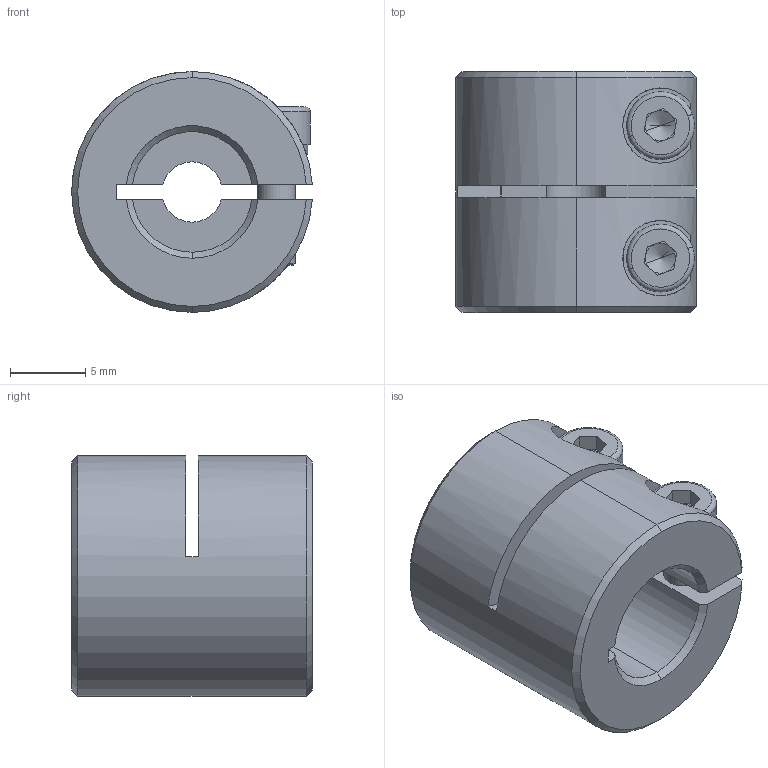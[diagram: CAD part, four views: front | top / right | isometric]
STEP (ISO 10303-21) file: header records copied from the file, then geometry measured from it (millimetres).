
FILE_DESCRIPTION (( 'STEP AP203' ), '1' );
FILE_NAME ('LL-B-D16L16-4-8.STEP', '2021-11-03T02:39:15', ( '' ), ( '' ), 'SwSTEP 2.0', 'SolidWorks 2018', '' );
FILE_SCHEMA (( 'CONFIG_CONTROL_DESIGN' ));
Length unit declared in the file: millimetre
Products named in the file (1): LL-B-D16L16-4-8
Bounding box: 15.98 x 16 x 16 mm (x, y, z)
Volume: 2530.3 mm3; surface area: 2041.3 mm2
Topology: 1 solids, 1 shells, 121 faces, 316 edges, 198 vertices
Faces by surface type: plane 52, cylinder 45, cone 20, torus 4
Entity records: 3977 total; most frequent: CARTESIAN_POINT 887, DIRECTION 656, ORIENTED_EDGE 624, EDGE_CURVE 312, AXIS2_PLACEMENT_3D 255, VERTEX_POINT 198, VECTOR 146, LINE 146
